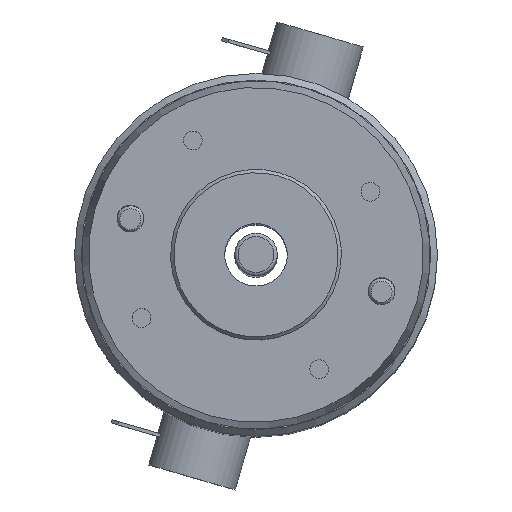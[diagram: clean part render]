
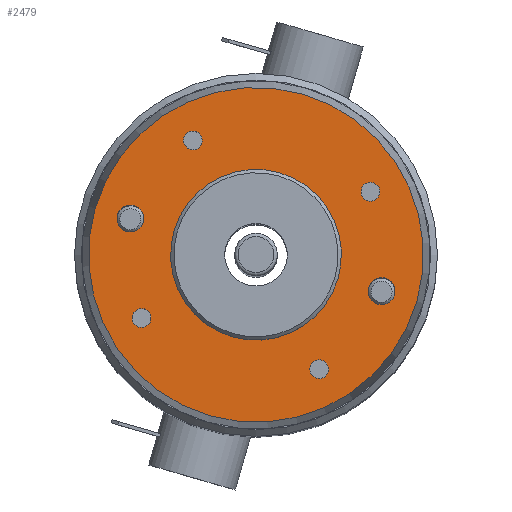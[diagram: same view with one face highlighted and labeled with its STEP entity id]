
A CAD part, top view. The second image highlights one B-rep face of the part: STEP entity #2479.
In plain terms, the highlighted planar face has unit normal (0, 0, 1).
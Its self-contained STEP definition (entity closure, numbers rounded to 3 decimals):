
#112=FACE_BOUND('',#492,.T.);
#113=FACE_BOUND('',#493,.T.);
#114=FACE_BOUND('',#494,.T.);
#115=FACE_BOUND('',#495,.T.);
#116=FACE_BOUND('',#496,.T.);
#117=FACE_BOUND('',#497,.T.);
#118=FACE_BOUND('',#498,.T.);
#212=PLANE('',#2915);
#342=FACE_OUTER_BOUND('',#491,.T.);
#491=EDGE_LOOP('',(#1781));
#492=EDGE_LOOP('',(#1782,#1783));
#493=EDGE_LOOP('',(#1784,#1785));
#494=EDGE_LOOP('',(#1786,#1787));
#495=EDGE_LOOP('',(#1788,#1789));
#496=EDGE_LOOP('',(#1790));
#497=EDGE_LOOP('',(#1791));
#498=EDGE_LOOP('',(#1792));
#1002=CIRCLE('',#2889,1.4);
#1003=CIRCLE('',#2890,1.4);
#1005=CIRCLE('',#2893,1.4);
#1006=CIRCLE('',#2894,1.4);
#1008=CIRCLE('',#2897,1.4);
#1009=CIRCLE('',#2898,1.4);
#1011=CIRCLE('',#2901,1.4);
#1012=CIRCLE('',#2902,1.4);
#1013=CIRCLE('',#2904,2.);
#1015=CIRCLE('',#2907,2.);
#1019=CIRCLE('',#2914,12.7);
#1020=CIRCLE('',#2916,24.9);
#1137=VERTEX_POINT('',#4005);
#1138=VERTEX_POINT('',#4007);
#1140=VERTEX_POINT('',#4013);
#1141=VERTEX_POINT('',#4015);
#1143=VERTEX_POINT('',#4021);
#1144=VERTEX_POINT('',#4023);
#1146=VERTEX_POINT('',#4029);
#1147=VERTEX_POINT('',#4031);
#1148=VERTEX_POINT('',#4035);
#1150=VERTEX_POINT('',#4041);
#1154=VERTEX_POINT('',#4055);
#1155=VERTEX_POINT('',#4059);
#1379=EDGE_CURVE('',#1138,#1137,#1002,.T.);
#1380=EDGE_CURVE('',#1137,#1138,#1003,.T.);
#1383=EDGE_CURVE('',#1141,#1140,#1005,.T.);
#1384=EDGE_CURVE('',#1140,#1141,#1006,.T.);
#1387=EDGE_CURVE('',#1144,#1143,#1008,.T.);
#1388=EDGE_CURVE('',#1143,#1144,#1009,.T.);
#1391=EDGE_CURVE('',#1147,#1146,#1011,.T.);
#1392=EDGE_CURVE('',#1146,#1147,#1012,.T.);
#1393=EDGE_CURVE('',#1148,#1148,#1013,.T.);
#1396=EDGE_CURVE('',#1150,#1150,#1015,.T.);
#1404=EDGE_CURVE('',#1154,#1154,#1019,.T.);
#1405=EDGE_CURVE('',#1155,#1155,#1020,.T.);
#1781=ORIENTED_EDGE('',*,*,#1405,.F.);
#1782=ORIENTED_EDGE('',*,*,#1379,.T.);
#1783=ORIENTED_EDGE('',*,*,#1380,.T.);
#1784=ORIENTED_EDGE('',*,*,#1383,.T.);
#1785=ORIENTED_EDGE('',*,*,#1384,.T.);
#1786=ORIENTED_EDGE('',*,*,#1387,.T.);
#1787=ORIENTED_EDGE('',*,*,#1388,.T.);
#1788=ORIENTED_EDGE('',*,*,#1391,.T.);
#1789=ORIENTED_EDGE('',*,*,#1392,.T.);
#1790=ORIENTED_EDGE('',*,*,#1393,.T.);
#1791=ORIENTED_EDGE('',*,*,#1396,.T.);
#1792=ORIENTED_EDGE('',*,*,#1404,.T.);
#2479=ADVANCED_FACE('',(#342,#112,#113,#114,#115,#116,#117,#118),#212,.F.);
#2889=AXIS2_PLACEMENT_3D('',#4008,#3224,#3225);
#2890=AXIS2_PLACEMENT_3D('',#4009,#3226,#3227);
#2893=AXIS2_PLACEMENT_3D('',#4016,#3233,#3234);
#2894=AXIS2_PLACEMENT_3D('',#4017,#3235,#3236);
#2897=AXIS2_PLACEMENT_3D('',#4024,#3242,#3243);
#2898=AXIS2_PLACEMENT_3D('',#4025,#3244,#3245);
#2901=AXIS2_PLACEMENT_3D('',#4032,#3251,#3252);
#2902=AXIS2_PLACEMENT_3D('',#4033,#3253,#3254);
#2904=AXIS2_PLACEMENT_3D('',#4036,#3257,#3258);
#2907=AXIS2_PLACEMENT_3D('',#4042,#3264,#3265);
#2914=AXIS2_PLACEMENT_3D('',#4057,#3282,#3283);
#2915=AXIS2_PLACEMENT_3D('',#4058,#3284,#3285);
#2916=AXIS2_PLACEMENT_3D('',#4060,#3286,#3287);
#3224=DIRECTION('center_axis',(0.,0.,-1.));
#3225=DIRECTION('ref_axis',(0.,1.,0.));
#3226=DIRECTION('center_axis',(0.,0.,-1.));
#3227=DIRECTION('ref_axis',(0.,1.,0.));
#3233=DIRECTION('center_axis',(0.,0.,-1.));
#3234=DIRECTION('ref_axis',(-1.,0.,0.));
#3235=DIRECTION('center_axis',(0.,0.,-1.));
#3236=DIRECTION('ref_axis',(-1.,0.,0.));
#3242=DIRECTION('center_axis',(0.,0.,-1.));
#3243=DIRECTION('ref_axis',(0.,-1.,0.));
#3244=DIRECTION('center_axis',(0.,0.,-1.));
#3245=DIRECTION('ref_axis',(0.,-1.,0.));
#3251=DIRECTION('center_axis',(0.,0.,-1.));
#3252=DIRECTION('ref_axis',(1.,0.,0.));
#3253=DIRECTION('center_axis',(0.,0.,-1.));
#3254=DIRECTION('ref_axis',(1.,0.,0.));
#3257=DIRECTION('center_axis',(0.,0.,-1.));
#3258=DIRECTION('ref_axis',(-1.,0.,0.));
#3264=DIRECTION('center_axis',(0.,0.,-1.));
#3265=DIRECTION('ref_axis',(-1.,0.,0.));
#3282=DIRECTION('center_axis',(0.,0.,-1.));
#3283=DIRECTION('ref_axis',(-1.,0.,0.));
#3284=DIRECTION('center_axis',(0.,0.,-1.));
#3285=DIRECTION('ref_axis',(-1.,0.,0.));
#3286=DIRECTION('center_axis',(0.,0.,-1.));
#3287=DIRECTION('ref_axis',(-1.,0.,0.));
#4005=CARTESIAN_POINT('',(-13.75,12.35,5.));
#4007=CARTESIAN_POINT('',(-13.75,15.15,5.));
#4008=CARTESIAN_POINT('Origin',(-13.75,13.75,5.));
#4009=CARTESIAN_POINT('Origin',(-13.75,13.75,5.));
#4013=CARTESIAN_POINT('',(-12.35,-13.75,5.));
#4015=CARTESIAN_POINT('',(-15.15,-13.75,5.));
#4016=CARTESIAN_POINT('Origin',(-13.75,-13.75,5.));
#4017=CARTESIAN_POINT('Origin',(-13.75,-13.75,5.));
#4021=CARTESIAN_POINT('',(13.75,-12.35,5.));
#4023=CARTESIAN_POINT('',(13.75,-15.15,5.));
#4024=CARTESIAN_POINT('Origin',(13.75,-13.75,5.));
#4025=CARTESIAN_POINT('Origin',(13.75,-13.75,5.));
#4029=CARTESIAN_POINT('',(12.35,13.75,5.));
#4031=CARTESIAN_POINT('',(15.15,13.75,5.));
#4032=CARTESIAN_POINT('Origin',(13.75,13.75,5.));
#4033=CARTESIAN_POINT('Origin',(13.75,13.75,5.));
#4035=CARTESIAN_POINT('',(21.445,0.,5.));
#4036=CARTESIAN_POINT('Origin',(19.445,0.,5.));
#4041=CARTESIAN_POINT('',(-17.445,0.,5.));
#4042=CARTESIAN_POINT('Origin',(-19.445,0.,5.));
#4055=CARTESIAN_POINT('',(12.7,0.,5.));
#4057=CARTESIAN_POINT('Origin',(0.,0.,5.));
#4058=CARTESIAN_POINT('Origin',(0.,0.,5.));
#4059=CARTESIAN_POINT('',(-24.9,0.,5.));
#4060=CARTESIAN_POINT('Origin',(0.,0.,5.));
